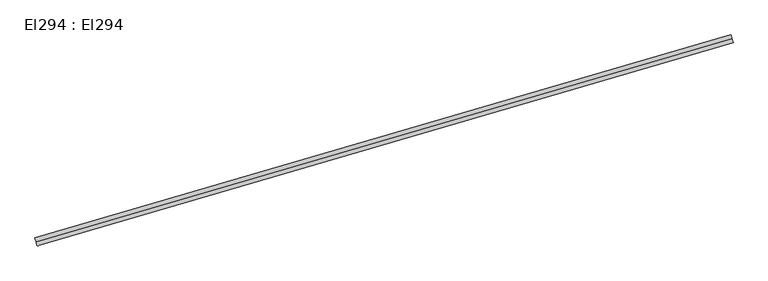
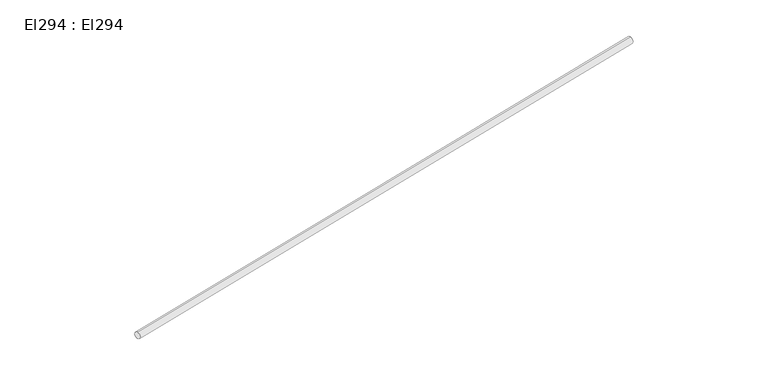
"""IFC4 building model written with IfcOpenShell, lengths in millimetres: cable carrier segment geometry, El294 : El294."""

import ifcopenshell
import ifcopenshell.guid

model = None  # the IFC model being written
_history = None  # IfcOwnerHistory: only IFC2X3 demands one
_inside = {}  # id of a spatial element -> (the spatial element, [elements in it])
_under = {}  # id of a project, library or spatial element -> (it, [spatial elements below it])
_declared = {}  # id of a project -> (the project, [libraries it declares])
_typed = {}  # id of a type object -> (the type object, [elements of that type])
_made_of = {}  # id of a material, layer set ... -> (it, [elements and type objects made of it])


def new_model(schema):
    """Start an empty IFC model of exactly this schema.

    Asked for "IFC4X3", IfcOpenShell would pick the latest addendum, in which some entities
    have other attributes; the version numbers below select the first issue.
    IFC2X3 requires an IfcOwnerHistory on every rooted entity: one is made here for all.
    """
    global model, _history
    if schema == "IFC4X3":
        model = ifcopenshell.file(schema_version=(4, 3, 0, 0))
    else:
        model = ifcopenshell.file(schema=schema)
    _inside.clear()
    _under.clear()
    _declared.clear()
    _typed.clear()
    _made_of.clear()
    _history = None
    if model.schema == "IFC2X3":
        org = make("IfcOrganization", Name="unknown")
        user = make(
            "IfcPersonAndOrganization",
            ThePerson=make("IfcPerson", FamilyName="unknown"),
            TheOrganization=org,
        )
        app = make(
            "IfcApplication",
            ApplicationDeveloper=org,
            Version="unknown",
            ApplicationFullName="unknown",
            ApplicationIdentifier="unknown",
        )
        _history = make(
            "IfcOwnerHistory",
            OwningUser=user,
            OwningApplication=app,
            ChangeAction="ADDED",
            CreationDate=0,
        )
    return model


def make(cls, **values):
    """One entity of the class cls with the attributes given. An attribute that is None is left unset."""
    return model.create_entity(
        cls, **{name: value for name, value in values.items() if value is not None}
    )


def rooted(cls, **values):
    """An entity with a GlobalId (a new one), such as an element, a storey or a relation."""
    return make(cls, GlobalId=ifcopenshell.guid.new(), OwnerHistory=_history, **values)


def si_unit(unit_type, name, prefix=None):
    """IfcSIUnit, for example si_unit("LENGTHUNIT", "METRE", prefix="MILLI")."""
    return make("IfcSIUnit", UnitType=unit_type, Prefix=prefix, Name=name)


def assignment(units):
    """IfcUnitAssignment: the units of a project."""
    return None if units is None else make("IfcUnitAssignment", Units=units)


def point(xyz):
    """IfcCartesianPoint."""
    return None if xyz is None else make("IfcCartesianPoint", Coordinates=xyz)


def direction(xyz):
    """IfcDirection."""
    return None if xyz is None else make("IfcDirection", DirectionRatios=xyz)


def frame(location, z_axis=None, x_axis=None):
    """IfcAxis2Placement3D, a coordinate frame: its origin and axes. An axis left out is left unset."""
    return make(
        "IfcAxis2Placement3D",
        Location=point(location),
        Axis=direction(z_axis),
        RefDirection=direction(x_axis),
    )


def frame_2d(location, x_axis=None):
    """IfcAxis2Placement2D, a coordinate frame in the plane: its origin and x axis."""
    return make(
        "IfcAxis2Placement2D", Location=point(location), RefDirection=direction(x_axis)
    )


def origin():
    """The frame at (0, 0, 0) with its axes left unset."""
    return frame((0.0, 0.0, 0.0))


def place(relative_to, where):
    """IfcLocalPlacement: puts the frame where relative to a parent placement (None: the world)."""
    return make(
        "IfcLocalPlacement", PlacementRelTo=relative_to, RelativePlacement=where
    )


def context(
    kind, dimensions, precision=None, world=None, true_north=None, identifier=None
):
    """IfcGeometricRepresentationContext, for example the 3D "Model" context."""
    return make(
        "IfcGeometricRepresentationContext",
        ContextIdentifier=identifier,
        ContextType=kind,
        CoordinateSpaceDimension=dimensions,
        Precision=precision,
        WorldCoordinateSystem=world,
        TrueNorth=true_north,
    )


def project(units=None, contexts=None):
    """IfcProject with its units and contexts."""
    return rooted(
        "IfcProject",
        Name="project",
        RepresentationContexts=contexts,
        UnitsInContext=assignment(units),
    )


def spatial(cls, under=None, at=None, **own):
    """A site, building, storey or space (cls), placed at a placement, below another one or the project."""
    s = rooted(cls, ObjectPlacement=at, **own)
    if under is not None:
        _under.setdefault(under.id(), (under, []))[1].append(s)
    return s


def circle_curve(where, radius):
    """IfcCircle in the frame where."""
    return make("IfcCircle", Position=where, Radius=radius)


def trimmed(basis, trim1, trim2, sense, master):
    """IfcTrimmedCurve: the piece of a basis curve between two trims."""
    return make(
        "IfcTrimmedCurve",
        BasisCurve=basis,
        Trim1=trim1,
        Trim2=trim2,
        SenseAgreement=sense,
        MasterRepresentation=master,
    )


def segment(curve, same_sense, transition):
    """IfcCompositeCurveSegment."""
    return make(
        "IfcCompositeCurveSegment",
        Transition=transition,
        SameSense=same_sense,
        ParentCurve=curve,
    )


def composite_curve(segments, self_intersect=None):
    """IfcCompositeCurve: segments joined end to end."""
    return make("IfcCompositeCurve", Segments=segments, SelfIntersect=self_intersect)


def outline(outer, holes=None, kind="AREA"):
    """IfcArbitraryClosedProfileDef: a profile drawn as a closed curve; with holes, ...WithVoids."""
    if holes is None:
        return make("IfcArbitraryClosedProfileDef", ProfileType=kind, OuterCurve=outer)
    return make(
        "IfcArbitraryProfileDefWithVoids",
        ProfileType=kind,
        OuterCurve=outer,
        InnerCurves=holes,
    )


def extrude(swept, where, along, depth):
    """IfcExtrudedAreaSolid: the profile swept, set in the frame where, extruded along a direction by depth."""
    return make(
        "IfcExtrudedAreaSolid",
        SweptArea=swept,
        Position=where,
        ExtrudedDirection=direction(along),
        Depth=depth,
    )


def shape(context_of_items, identifier, shape_type, items):
    """IfcShapeRepresentation: the items that make up one representation, for example the "Body"."""
    return make(
        "IfcShapeRepresentation",
        ContextOfItems=context_of_items,
        RepresentationIdentifier=identifier,
        RepresentationType=shape_type,
        Items=items,
    )


def source(mapping_origin, context_of_items, identifier, shape_type, items):
    """IfcRepresentationMap: a shape defined once, which mapped items show again and again."""
    return make(
        "IfcRepresentationMap",
        MappingOrigin=mapping_origin,
        MappedRepresentation=shape(context_of_items, identifier, shape_type, items),
    )


def transform(
    local_origin,
    x_axis=None,
    y_axis=None,
    z_axis=None,
    scale=None,
    scale2=None,
    scale3=None,
    uniform=True,
):
    """IfcCartesianTransformationOperator3D, or its non-uniform kind. x_axis, y_axis, z_axis: its Axis1, 2, 3."""
    if uniform:
        return make(
            "IfcCartesianTransformationOperator3D",
            Axis1=direction(x_axis),
            Axis2=direction(y_axis),
            LocalOrigin=point(local_origin),
            Scale=scale,
            Axis3=direction(z_axis),
        )
    return make(
        "IfcCartesianTransformationOperator3DnonUniform",
        Axis1=direction(x_axis),
        Axis2=direction(y_axis),
        LocalOrigin=point(local_origin),
        Scale=scale,
        Axis3=direction(z_axis),
        Scale2=scale2,
        Scale3=scale3,
    )


def mapped(mapping_source, mapping_target):
    """IfcMappedItem: shows the shape of a source again, moved by a transform."""
    return make(
        "IfcMappedItem", MappingSource=mapping_source, MappingTarget=mapping_target
    )


def made_of(thing, what):
    """Note that an element or type object is made of a material, layer set ...; save() writes the relation."""
    if what is not None:
        _made_of.setdefault(what.id(), (what, []))[1].append(thing)
    return thing


def element(
    cls,
    number,
    at=None,
    inside=None,
    cuts=None,
    type_object=None,
    material=None,
    context=None,
    identifier="Body",
    shape_type=None,
    held_by="IfcProductDefinitionShape",
    body=None,
    shapes=None,
    **own,
):
    """One element of the class cls, such as IfcWall. Its Tag is "e" and its number.

    at: its placement. inside: the storey or other place that contains it. cuts: it is an
    opening in that element (IfcRelVoidsElement). A single representation is given by context,
    identifier, shape_type and body (its items); several are given by shapes. held_by: the class
    of the entity that holds the representations. save() writes the other relations.
    """
    e = rooted(cls, Tag="e%d" % number, ObjectPlacement=at, **own)
    if body is not None:
        shapes = [shape(context, identifier, shape_type, body)]
    if shapes is not None:
        e.Representation = make(held_by, Representations=shapes)
    if inside is not None:
        _inside.setdefault(inside.id(), (inside, []))[1].append(e)
    if cuts is not None:
        rooted(
            "IfcRelVoidsElement", RelatingBuildingElement=cuts, RelatedOpeningElement=e
        )
    if type_object is not None:
        _typed.setdefault(type_object.id(), (type_object, []))[1].append(e)
    return made_of(e, material)


def aggregate(whole, parts):
    """IfcRelAggregates: a whole, such as a stair, and the parts it consists of."""
    return rooted("IfcRelAggregates", RelatingObject=whole, RelatedObjects=parts)


def save(model, path):
    """Write the relations noted so far, then the file.

    IfcRelAggregates (storeys below a building ...), IfcRelContainedInSpatialStructure (elements
    in a storey), IfcRelDefinesByType, IfcRelAssociatesMaterial and IfcRelDeclares: one each for
    every whole, place, type object, material and project.
    """
    for whole, parts in _under.values():
        aggregate(whole, parts)
    for where, things in _inside.values():
        rooted(
            "IfcRelContainedInSpatialStructure",
            RelatedElements=things,
            RelatingStructure=where,
        )
    for kind, things in _typed.values():
        rooted("IfcRelDefinesByType", RelatedObjects=things, RelatingType=kind)
    for what, things in _made_of.values():
        rooted("IfcRelAssociatesMaterial", RelatedObjects=things, RelatingMaterial=what)
    for by, libraries in _declared.values():
        rooted("IfcRelDeclares", RelatingContext=by, RelatedDefinitions=libraries)
    model.write(path)


def el294_el294_a01e16d7(model_context):
    return source(origin(), model_context, "Body", "SweptSolid", [
        extrude(outline(composite_curve([segment(trimmed(circle_curve(frame_2d((0.0, -9.5)), 9.5), [point((0.0, -19.0))], [point((0.0, 0.0))], False, "CARTESIAN"), True, "CONTINUOUS"), segment(trimmed(circle_curve(frame_2d((0.0, -9.5)), 9.5), [point((0.0, 0.0))], [point((0.0, -19.0))], False, "CARTESIAN"), True, "CONTINUOUS")], self_intersect=False)), frame((13521.939, 14280.022, 2959.5), z_axis=(0.9597832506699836, 0.2807420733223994, 0.0), x_axis=(-0.2807420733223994, 0.9597832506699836, 0.0)), (0.0, 0.0, 1.0), 1732.39),
    ])


if __name__ == "__main__":
    model = new_model("IFC4")
    model_context = context("Model", 3, world=origin())
    ifc_project = project(units=[si_unit("LENGTHUNIT", "METRE", prefix="MILLI")], contexts=[model_context])
    site = spatial("IfcSite", under=ifc_project)
    building = spatial("IfcBuilding", under=site)
    placement = place(None, origin())
    el294_el294_shape = el294_el294_a01e16d7(model_context)
    element("IfcCableCarrierSegment", 1, ObjectType="El294 : El294", at=placement, inside=building, context=model_context, shape_type="MappedRepresentation", body=[
        mapped(el294_el294_shape, transform((0.0, 0.0, 0.0), x_axis=(1.0, 0.0, 0.0), y_axis=(0.0, 1.0, 0.0), z_axis=(0.0, 0.0, 1.0))),
    ])
    save(model, "model.ifc")
